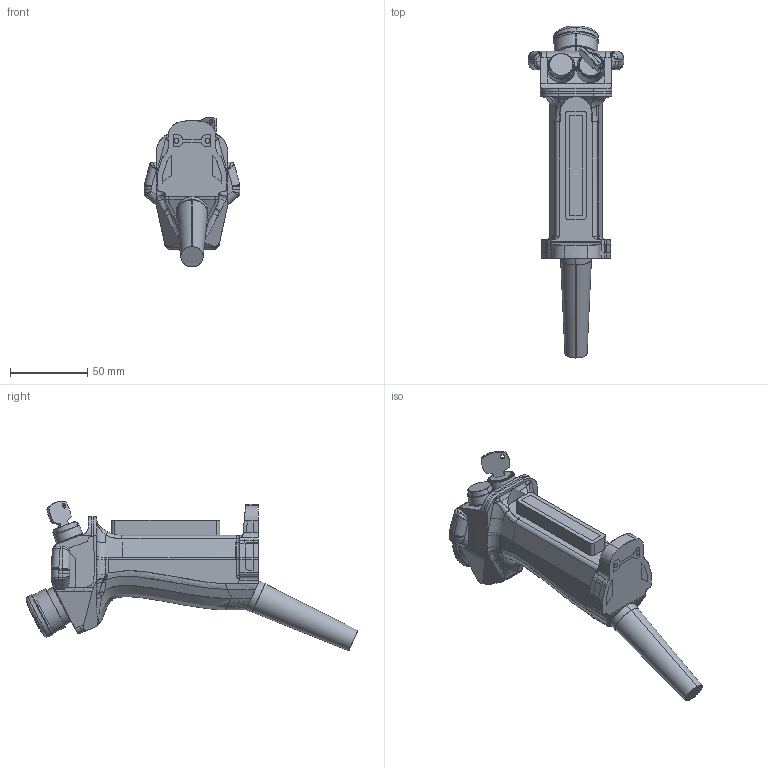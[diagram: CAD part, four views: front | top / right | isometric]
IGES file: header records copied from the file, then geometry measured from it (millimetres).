
Start section: SolidWorks IGES file using analytic representation for surfaces
Global section: file name: C:\catalog\sg-c1-21-emk.IGS; native system: SolidWorks 2019; preprocessor: SolidWorks 2019; author: 5131475; date: 230405.104230; units: millimetre
Bounding box: 62 x 214.59 x 96.69 mm (x, y, z)
Surface area: 36028.7 mm2 (no closed solid volume)
Topology: 0 solids, 0 shells, 479 faces, 5526 edges, 5505 vertices
Faces by surface type: bspline 343, revolution 136
